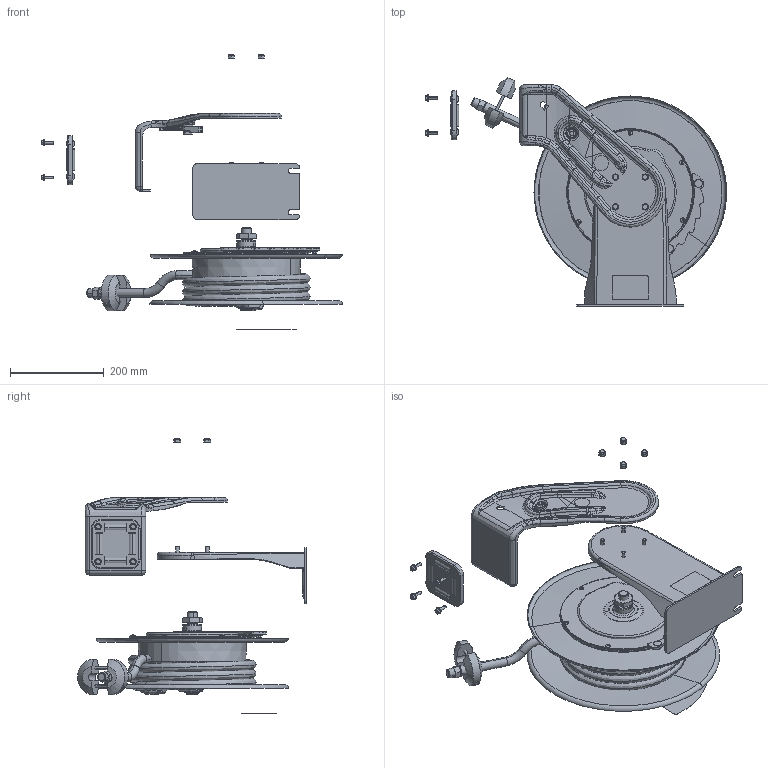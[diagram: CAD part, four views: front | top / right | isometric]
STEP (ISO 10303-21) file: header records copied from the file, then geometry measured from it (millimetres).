
FILE_DESCRIPTION((''),'2;1');
FILE_NAME('HPH5HA-EN-E_PRT','2020-01-01T12:06:39',('qusrh3'),(''),'CREO PARAMETRIC BY PTC INC, 2019030','CREO PARAMETRIC BY PTC INC, 2019030','');
FILE_SCHEMA(('CONFIG_CONTROL_DESIGN'));
Products named in the file (1): HPH5HA-EN-E_PRT
Bounding box: 644.15 x 489.52 x 589.92 mm (x, y, z)
Surface area: 1424725.4 mm2 (no closed solid volume)
Topology: 0 solids, 117 shells, 1516 faces, 3724 edges, 2272 vertices
Faces by surface type: bspline 354, cone 343, plane 332, cylinder 301, torus 166, sphere 18, extrusion 2
Entity records: 72588 total; most frequent: CARTESIAN_POINT 39707, ORIENTED_EDGE 6881, DIRECTION 6545, EDGE_CURVE 3712, AXIS2_PLACEMENT_3D 2738, VERTEX_POINT 2272, CIRCLE 1578, EDGE_LOOP 1516
